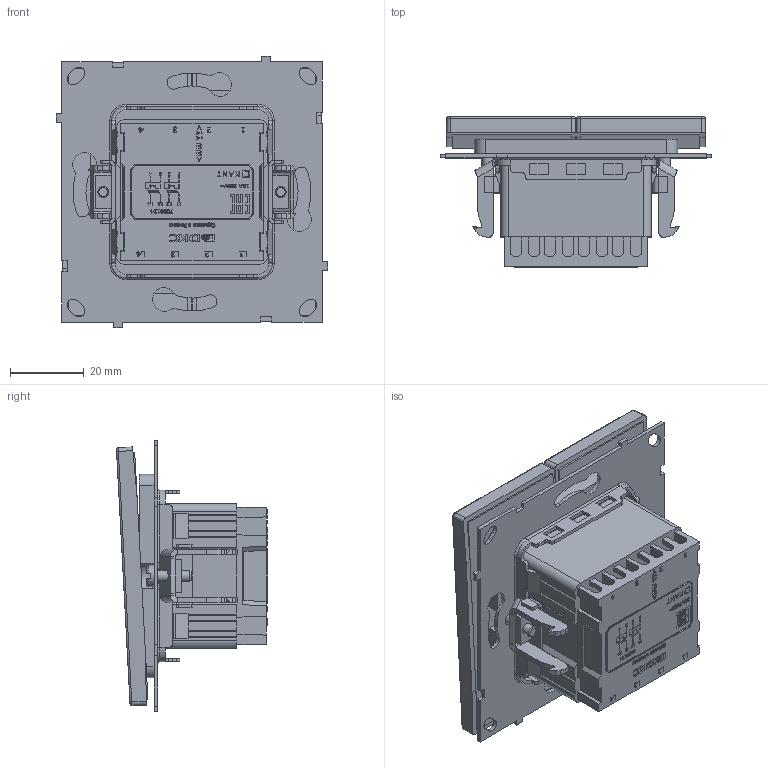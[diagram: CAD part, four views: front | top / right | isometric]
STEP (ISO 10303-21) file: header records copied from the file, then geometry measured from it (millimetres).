
FILE_DESCRIPTION (( 'STEP AP203' ), '1' );
FILE_NAME ('7000124.STEP', '2025-10-28T11:28:38', ( '' ), ( '' ), 'SwSTEP 2.0', 'SolidWorks 2022', '' );
FILE_SCHEMA (( 'CONFIG_CONTROL_DESIGN' ));
Products named in the file (1): 7000124
Bounding box: 73.5 x 40.88 x 73.5 mm (x, y, z)
Volume: 80395.4 mm3; surface area: 29931 mm2
Topology: 3 solids, 3 shells, 1966 faces, 5442 edges, 3568 vertices
Faces by surface type: plane 1271, bspline 419, cylinder 242, torus 22, cone 12
Full cylindrical faces by diameter (mm): 3 x4, 3.3 x2
Entity records: 77045 total; most frequent: CARTESIAN_POINT 29378, ORIENTED_EDGE 10844, DIRECTION 8118, EDGE_CURVE 5422, LINE 4010, VECTOR 4010, VERTEX_POINT 3560, EDGE_LOOP 2128
